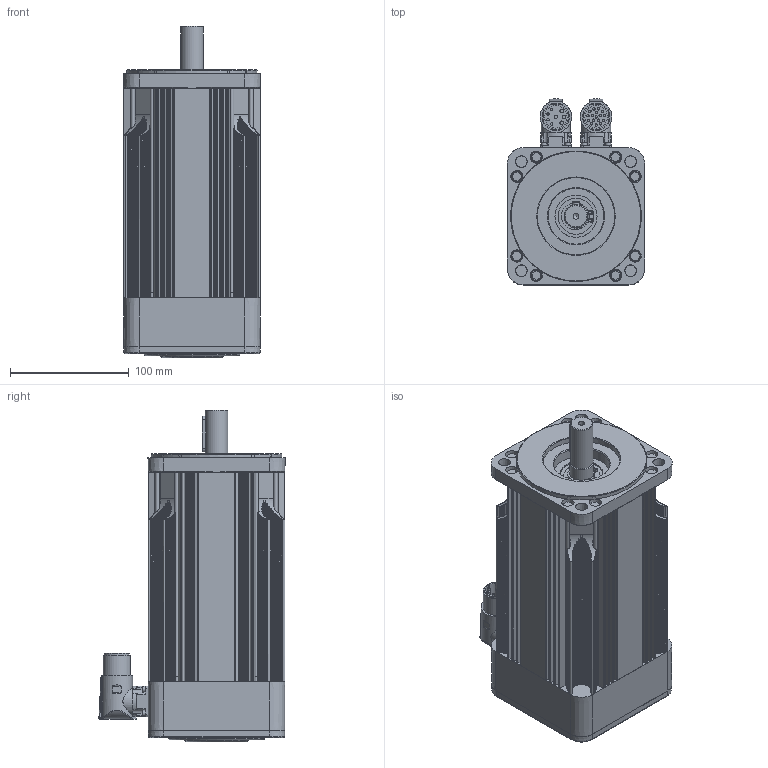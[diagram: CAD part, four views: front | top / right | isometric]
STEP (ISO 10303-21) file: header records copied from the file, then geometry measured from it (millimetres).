
FILE_DESCRIPTION( ( 'Unknown' ), '1' );
FILE_NAME( 'C:/Users/carpi/Desktop/step/Q0A536_5,2.stp', 'Unknown', ( 'Unknown' ), ( 'Unknown' ), 'PSStep 14.0', 'Unknown', ' ' );
FILE_SCHEMA( ( 'AUTOMOTIVE_DESIGN { 1 0 10303 214 1 1 1 1 }' ) );
Length unit declared in the file: millimetre
Products named in the file (26): Assem1; CUSC_20_52_15_6304_ZZ; A-Ela 20 P; N09403; Vite a brugola testa cil 8,8 -  M  4 x 12; N11401; Vite a brugola testa cil 8,8 -  M 2,5 x 8; CN M23 PAN-SEG AEDC 139 17 pin 90°o SpTcR; CN M23 PAN-POT BEDC 110 4+4 pin 90°o SpTcR; LI-PIA   6x6 x 30; N33405; N49400-5,2_fre; N49400-5,2_fre-oa0; N49400-5,2_fre-oa1; N49400-5,2_fre-oa2; N49400-5,2_fre-oa3; N49400-5,2_fre-oa4; N49400-5,2_fre-oa5; N49400-5,2_fre-oa6; N01411; N25400_9,2
Assembly tree (35 placements, depth 2):
  Assem1
    CUSC_20_52_15_6304_ZZ
    CUSC_20_52_15_6304_ZZ
    CUSC_20_52_15_6304_ZZ
    CUSC_20_52_15_6304_ZZ
    CUSC_20_52_15_6304_ZZ
    CUSC_20_52_15_6304_ZZ
    A-Ela 20 P
    N09403
    Vite a brugola testa cil 8,8 -  M  4 x 12  x4
    N11401
    Vite a brugola testa cil 8,8 -  M 2,5 x 8  x8
    CN M23 PAN-SEG AEDC 139 17 pin 90°o SpTcR
    CN M23 PAN-POT BEDC 110 4+4 pin 90°o SpTcR
    LI-PIA   6x6 x 30
    N33405
    N49400-5,2_fre
    N49400-5,2_fre-oa0
    N49400-5,2_fre-oa1
    N49400-5,2_fre-oa2
    N49400-5,2_fre-oa3
    N49400-5,2_fre-oa4
    N49400-5,2_fre-oa5
    N49400-5,2_fre-oa6
    N01411
    N25400_9,2
Bounding box: 115.45 x 156.78 x 279 mm (x, y, z)
Volume: 937051.4 mm3; surface area: 450081.8 mm2
Topology: 35 solids, 36 shells, 1992 faces, 5042 edges, 3196 vertices
Faces by surface type: cylinder 749, plane 613, cone 216, torus 209, bspline 158, sphere 47
Full cylindrical faces by diameter (mm): 2 x21, 2.013 x8, 2.5 x10, 2.7 x8, 3 x4, 3.242 x8, 3.3 x13, 3.4 x8, 4 x12, 4.7 x8, 5 x1, 7 x4, 8 x1, 8.5 x8, 17 x2, 19 x2, 19.8 x2, 20 x6, 21.3 x2, 23 x2, 23.9 x1, 24.5 x2, 24.7 x1, 25 x2, 30.24 x4, 41.76 x4, 44 x1, 47 x4, 49.5 x1, 50.2 x1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
Entity records: 80514 total; most frequent: CARTESIAN_POINT 26578, DIRECTION 8811, ORIENTED_EDGE 8658, EDGE_CURVE 4329, AXIS2_PLACEMENT_3D 3636, VERTEX_POINT 2900, EDGE_LOOP 2292, FACE_OUTER_BOUND 2012
